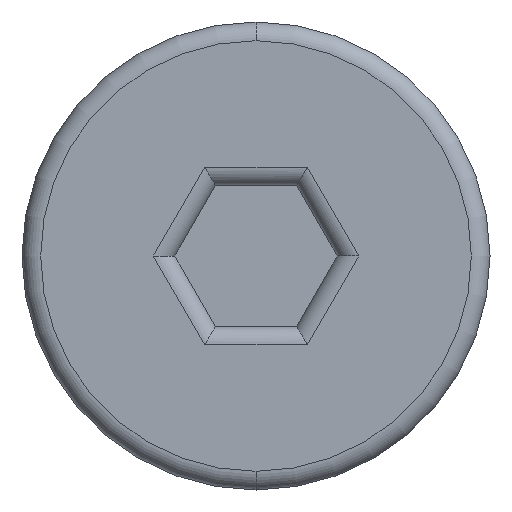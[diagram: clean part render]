
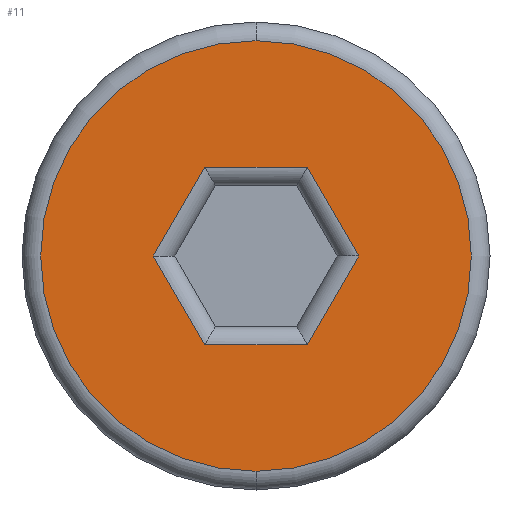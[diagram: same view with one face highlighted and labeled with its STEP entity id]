
A CAD part, front view. The second image highlights one B-rep face of the part: STEP entity #11.
In plain terms, the highlighted planar face has unit normal (0, -1, 0).
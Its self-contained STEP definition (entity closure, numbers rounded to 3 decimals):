
#10 = EDGE_LOOP ( 'NONE', ( #635, #337 ) ) ;
#11 = ADVANCED_FACE ( 'NONE', ( #555, #21 ), #657, .F. ) ;
#14 = VERTEX_POINT ( 'NONE', #540 ) ;
#21 = FACE_BOUND ( 'NONE', #642, .T. ) ;
#28 = VECTOR ( 'NONE', #111, 1000. ) ;
#29 = CARTESIAN_POINT ( 'NONE',  ( 0.823, 0., -0.475 ) ) ;
#34 = CARTESIAN_POINT ( 'NONE',  ( 1.097, 0., 0. ) ) ;
#37 = EDGE_CURVE ( 'NONE', #535, #124, #211, .T. ) ;
#54 = DIRECTION ( 'NONE',  ( 0., 0., 1. ) ) ;
#56 = EDGE_CURVE ( 'NONE', #720, #731, #510, .T. ) ;
#65 = VECTOR ( 'NONE', #115, 1000. ) ;
#68 = EDGE_CURVE ( 'NONE', #731, #201, #326, .T. ) ;
#96 = CARTESIAN_POINT ( 'NONE',  ( 0.548, 0., 0.95 ) ) ;
#111 = DIRECTION ( 'NONE',  ( 1., 0., 0. ) ) ;
#115 = DIRECTION ( 'NONE',  ( 0.5, 0., -0.866 ) ) ;
#122 = CARTESIAN_POINT ( 'NONE',  ( -1.097, 0., 0. ) ) ;
#124 = VERTEX_POINT ( 'NONE', #220 ) ;
#172 = DIRECTION ( 'NONE',  ( 0., 0., 1. ) ) ;
#193 = CARTESIAN_POINT ( 'NONE',  ( 0., 0., 0. ) ) ;
#194 = AXIS2_PLACEMENT_3D ( 'NONE', #193, #442, #366 ) ;
#201 = VERTEX_POINT ( 'NONE', #693 ) ;
#211 = LINE ( 'NONE', #29, #256 ) ;
#220 = CARTESIAN_POINT ( 'NONE',  ( 0.548, 0., -0.95 ) ) ;
#224 = EDGE_CURVE ( 'NONE', #201, #527, #640, .T. ) ;
#233 = VECTOR ( 'NONE', #387, 1000. ) ;
#245 = EDGE_CURVE ( 'NONE', #268, #14, #658, .T. ) ;
#248 = LINE ( 'NONE', #374, #681 ) ;
#256 = VECTOR ( 'NONE', #328, 1000. ) ;
#268 = VERTEX_POINT ( 'NONE', #578 ) ;
#273 = EDGE_CURVE ( 'NONE', #527, #535, #422, .T. ) ;
#275 = CARTESIAN_POINT ( 'NONE',  ( -0.823, 0., 0.475 ) ) ;
#324 = ORIENTED_EDGE ( 'NONE', *, *, #68, .T. ) ;
#326 = LINE ( 'NONE', #275, #694 ) ;
#328 = DIRECTION ( 'NONE',  ( -0.5, 0., -0.866 ) ) ;
#337 = ORIENTED_EDGE ( 'NONE', *, *, #245, .T. ) ;
#348 = EDGE_CURVE ( 'NONE', #124, #720, #248, .T. ) ;
#349 = CARTESIAN_POINT ( 'NONE',  ( 0., 0., 0. ) ) ;
#366 = DIRECTION ( 'NONE',  ( 0., 0., 1. ) ) ;
#374 = CARTESIAN_POINT ( 'NONE',  ( 0., 0., -0.95 ) ) ;
#387 = DIRECTION ( 'NONE',  ( -0.5, 0., 0.866 ) ) ;
#396 = DIRECTION ( 'NONE',  ( 0.5, 0., 0.866 ) ) ;
#397 = ORIENTED_EDGE ( 'NONE', *, *, #348, .T. ) ;
#422 = LINE ( 'NONE', #534, #65 ) ;
#426 = ORIENTED_EDGE ( 'NONE', *, *, #273, .T. ) ;
#441 = AXIS2_PLACEMENT_3D ( 'NONE', #349, #707, #54 ) ;
#442 = DIRECTION ( 'NONE',  ( 0., 1., 0. ) ) ;
#493 = DIRECTION ( 'NONE',  ( -1., 0., 0. ) ) ;
#507 = CARTESIAN_POINT ( 'NONE',  ( 0., 0., 0. ) ) ;
#510 = LINE ( 'NONE', #570, #233 ) ;
#527 = VERTEX_POINT ( 'NONE', #96 ) ;
#534 = CARTESIAN_POINT ( 'NONE',  ( 0.823, 0., 0.475 ) ) ;
#535 = VERTEX_POINT ( 'NONE', #34 ) ;
#540 = CARTESIAN_POINT ( 'NONE',  ( 0., 0., 2.3 ) ) ;
#555 = FACE_OUTER_BOUND ( 'NONE', #10, .T. ) ;
#568 = ORIENTED_EDGE ( 'NONE', *, *, #56, .T. ) ;
#570 = CARTESIAN_POINT ( 'NONE',  ( -0.823, 0., -0.475 ) ) ;
#578 = CARTESIAN_POINT ( 'NONE',  ( 0., 0., -2.3 ) ) ;
#589 = CARTESIAN_POINT ( 'NONE',  ( 0., 0., 0.95 ) ) ;
#608 = CIRCLE ( 'NONE', #634, 2.3 ) ;
#611 = ORIENTED_EDGE ( 'NONE', *, *, #37, .T. ) ;
#615 = EDGE_CURVE ( 'NONE', #14, #268, #608, .T. ) ;
#634 = AXIS2_PLACEMENT_3D ( 'NONE', #507, #742, #172 ) ;
#635 = ORIENTED_EDGE ( 'NONE', *, *, #615, .T. ) ;
#640 = LINE ( 'NONE', #589, #28 ) ;
#642 = EDGE_LOOP ( 'NONE', ( #324, #645, #426, #611, #397, #568 ) ) ;
#645 = ORIENTED_EDGE ( 'NONE', *, *, #224, .T. ) ;
#648 = CARTESIAN_POINT ( 'NONE',  ( -0.548, 0., -0.95 ) ) ;
#657 = PLANE ( 'NONE',  #194 ) ;
#658 = CIRCLE ( 'NONE', #441, 2.3 ) ;
#681 = VECTOR ( 'NONE', #493, 1000. ) ;
#693 = CARTESIAN_POINT ( 'NONE',  ( -0.548, 0., 0.95 ) ) ;
#694 = VECTOR ( 'NONE', #396, 1000. ) ;
#707 = DIRECTION ( 'NONE',  ( 0., -1., 0. ) ) ;
#720 = VERTEX_POINT ( 'NONE', #648 ) ;
#731 = VERTEX_POINT ( 'NONE', #122 ) ;
#742 = DIRECTION ( 'NONE',  ( 0., -1., 0. ) ) ;
